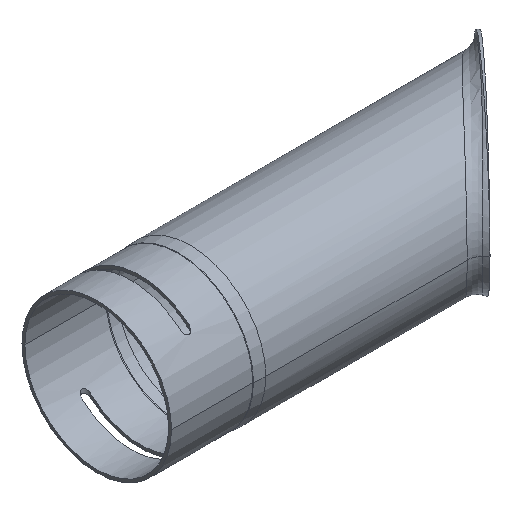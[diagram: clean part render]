
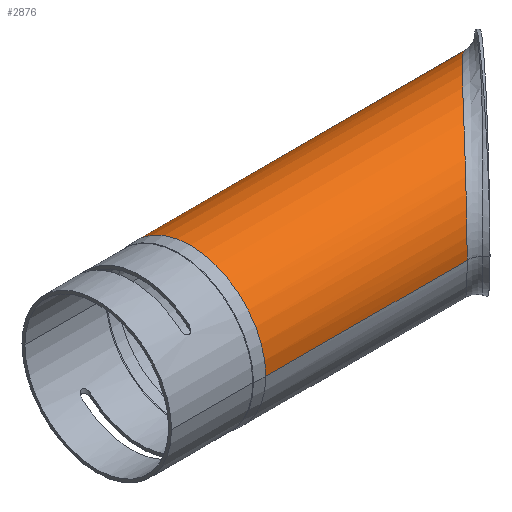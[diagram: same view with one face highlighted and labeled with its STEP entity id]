
A CAD part, isometric view. The second image highlights one B-rep face of the part: STEP entity #2876.
In plain terms, the highlighted cylindrical face has radius 39 mm (diameter 78 mm), a partial arc.
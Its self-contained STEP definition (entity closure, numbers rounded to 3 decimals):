
#977=DIRECTION('',(-1.,0.,0.));
#978=VECTOR('',#977,103.624);
#979=CARTESIAN_POINT('',(-81.314,-39.,
0.));
#980=LINE('',#979,#978);
#984=CARTESIAN_POINT('',(-3.314,39.,0.));
#1053=CARTESIAN_POINT('',(-81.314,-39.,
0.));
#1058=DIRECTION('',(-1.,0.,0.));
#1059=VECTOR('',#1058,181.624);
#1060=CARTESIAN_POINT('',(-3.314,39.,0.));
#1061=LINE('',#1060,#1059);
#1065=CARTESIAN_POINT('',(-184.938,0.,0.));
#1066=DIRECTION('',(1.,0.,0.));
#1067=DIRECTION('',(0.,1.,0.));
#1068=AXIS2_PLACEMENT_3D('',#1065,#1066,#1067);
#1073=CARTESIAN_POINT('',(-81.314,-39.,
0.));
#1074=CARTESIAN_POINT('',(-81.314,-39.,
0.515));
#1075=CARTESIAN_POINT('',(-81.295,-38.98,
1.548));
#1076=CARTESIAN_POINT('',(-81.21,-38.887,
3.107));
#1077=CARTESIAN_POINT('',(-81.066,-38.73,
4.671));
#1078=CARTESIAN_POINT('',(-80.862,-38.509,
6.24));
#1079=CARTESIAN_POINT('',(-80.598,-38.222,
7.807));
#1080=CARTESIAN_POINT('',(-80.272,-37.869,
9.372));
#1081=CARTESIAN_POINT('',(-79.886,-37.449,
10.929));
#1082=CARTESIAN_POINT('',(-79.432,-36.958,
12.491));
#1083=CARTESIAN_POINT('',(-78.914,-36.397,
14.042));
#1084=CARTESIAN_POINT('',(-78.329,-35.765,
15.583));
#1085=CARTESIAN_POINT('',(-77.671,-35.056,
17.12));
#1086=CARTESIAN_POINT('',(-76.937,-34.267,18.649));
#1087=CARTESIAN_POINT('',(-76.125,-33.396,
20.169));
#1088=CARTESIAN_POINT('',(-75.231,-32.437,
21.678));
#1089=CARTESIAN_POINT('',(-74.253,-31.388,
23.172));
#1090=CARTESIAN_POINT('',(-73.193,-30.251,
24.639));
#1091=CARTESIAN_POINT('',(-72.046,-29.022,
26.076));
#1092=CARTESIAN_POINT('',(-70.815,-27.703,
27.474));
#1093=CARTESIAN_POINT('',(-69.497,-26.293,
28.826));
#1094=CARTESIAN_POINT('',(-68.091,-24.793,
30.127));
#1095=CARTESIAN_POINT('',(-66.588,-23.194,
31.376));
#1096=CARTESIAN_POINT('',(-64.992,-21.497,
32.563));
#1097=CARTESIAN_POINT('',(-63.304,-19.703,
33.679));
#1098=CARTESIAN_POINT('',(-61.533,-17.822,
34.712));
#1099=CARTESIAN_POINT('',(-59.684,-15.859,
35.653));
#1100=CARTESIAN_POINT('',(-57.763,-13.822,
36.491));
#1101=CARTESIAN_POINT('',(-55.778,-11.72,
37.22));
#1102=CARTESIAN_POINT('',(-53.729,-9.558,
37.833));
#1103=CARTESIAN_POINT('',(-51.621,-7.34,
38.326));
#1104=CARTESIAN_POINT('',(-49.466,-5.078,
38.691));
#1105=CARTESIAN_POINT('',(-47.275,-2.785,
38.923));
#1106=CARTESIAN_POINT('',(-45.064,-0.482,
39.02));
#1107=CARTESIAN_POINT('',(-42.852,1.809,38.98));
#1108=CARTESIAN_POINT('',(-40.654,4.069,38.809));
#1109=CARTESIAN_POINT('',(-38.505,6.259,38.515));
#1110=CARTESIAN_POINT('',(-36.391,8.396,38.106));
#1111=CARTESIAN_POINT('',(-34.311,10.481,37.585));
#1112=CARTESIAN_POINT('',(-32.278,12.501,36.962));
#1113=CARTESIAN_POINT('',(-30.293,14.455,36.242));
#1114=CARTESIAN_POINT('',(-28.362,16.338,35.432));
#1115=CARTESIAN_POINT('',(-26.49,18.145,34.541));
#1116=CARTESIAN_POINT('',(-24.692,19.863,33.581));
#1117=CARTESIAN_POINT('',(-22.972,21.49,32.564));
#1118=CARTESIAN_POINT('',(-21.315,23.042,31.484));
#1119=CARTESIAN_POINT('',(-19.724,24.518,30.348));
#1120=CARTESIAN_POINT('',(-18.207,25.913,29.165));
#1121=CARTESIAN_POINT('',(-16.762,27.231,27.938));
#1122=CARTESIAN_POINT('',(-15.391,28.471,26.673));
#1123=CARTESIAN_POINT('',(-14.093,29.636,25.371));
#1124=CARTESIAN_POINT('',(-12.877,30.719,24.047));
#1125=CARTESIAN_POINT('',(-11.739,31.727,22.701));
#1126=CARTESIAN_POINT('',(-10.675,32.662,21.333));
#1127=CARTESIAN_POINT('',(-9.688,33.526,19.947));
#1128=CARTESIAN_POINT('',(-8.776,34.32,18.547));
#1129=CARTESIAN_POINT('',(-7.938,35.046,17.136));
#1130=CARTESIAN_POINT('',(-7.175,35.705,15.715));
#1131=CARTESIAN_POINT('',(-6.483,36.3,14.286));
#1132=CARTESIAN_POINT('',(-5.865,36.83,12.857));
#1133=CARTESIAN_POINT('',(-5.316,37.299,11.425));
#1134=CARTESIAN_POINT('',(-4.836,37.709,9.989));
#1135=CARTESIAN_POINT('',(-4.423,38.06,8.551));
#1136=CARTESIAN_POINT('',(-4.075,38.355,7.113));
#1137=CARTESIAN_POINT('',(-3.794,38.594,5.675));
#1138=CARTESIAN_POINT('',(-3.577,38.777,4.243));
#1139=CARTESIAN_POINT('',(-3.424,38.907,2.817));
#1140=CARTESIAN_POINT('',(-3.333,38.983,1.401));
#1141=CARTESIAN_POINT('',(-3.314,39.,
0.466));
#1142=CARTESIAN_POINT('',(-3.314,39.,0.));
#1187=CARTESIAN_POINT('',(-184.938,39.,0.));
#1188=CARTESIAN_POINT('',(-184.938,-39.,0.));
#1189=VERTEX_POINT('',#1187);
#1190=VERTEX_POINT('',#1188);
#1207=VERTEX_POINT('',#984);
#1208=VERTEX_POINT('',#1053);
#2865=CARTESIAN_POINT('',(-244.65,0.,0.));
#2866=DIRECTION('',(1.,0.,0.));
#2867=DIRECTION('',(0.,-1.,0.));
#2868=AXIS2_PLACEMENT_3D('',#2865,#2866,#2867);
#2869=CYLINDRICAL_SURFACE('',#2868,39.);
#2870=ORIENTED_EDGE('',*,*,#2807,.F.);
#2871=ORIENTED_EDGE('',*,*,#2860,.F.);
#2872=ORIENTED_EDGE('',*,*,#1886,.F.);
#2873=ORIENTED_EDGE('',*,*,#2857,.T.);
#2874=EDGE_LOOP('',(#2870,#2871,#2872,#2873));
#2875=FACE_OUTER_BOUND('',#2874,.F.);
#1069=CIRCLE('',#1068,39.);
#1143=B_SPLINE_CURVE_WITH_KNOTS('',3,(#1073,#1074,#1075,#1076,#1077,#1078,#1079,
#1080,#1081,#1082,#1083,#1084,#1085,#1086,#1087,#1088,#1089,#1090,#1091,#1092,
#1093,#1094,#1095,#1096,#1097,#1098,#1099,#1100,#1101,#1102,#1103,#1104,#1105,
#1106,#1107,#1108,#1109,#1110,#1111,#1112,#1113,#1114,#1115,#1116,#1117,#1118,
#1119,#1120,#1121,#1122,#1123,#1124,#1125,#1126,#1127,#1128,#1129,#1130,#1131,
#1132,#1133,#1134,#1135,#1136,#1137,#1138,#1139,#1140,#1141,#1142),
.UNSPECIFIED.,.F.,.F.,(4,1,1,1,1,1,1,1,1,1,1,1,1,1,1,1,1,1,1,1,1,1,1,1,1,1,1,1,
1,1,1,1,1,1,1,1,1,1,1,1,1,1,1,1,1,1,1,1,1,1,1,1,1,1,1,1,1,1,1,1,1,1,1,1,1,1,1,
4),(0.,0.015,0.03,0.045,
0.06,0.075,0.09,0.104,
0.119,0.134,0.149,0.164,
0.179,0.194,0.209,0.224,
0.239,0.254,0.269,0.284,
0.299,0.313,0.328,0.343,
0.358,0.373,0.388,0.403,
0.418,0.433,0.448,0.463,
0.478,0.493,0.507,0.522,
0.537,0.552,0.567,0.582,
0.597,0.612,0.627,0.642,
0.657,0.672,0.687,0.701,
0.716,0.731,0.746,0.761,
0.776,0.791,0.806,0.821,
0.836,0.851,0.866,0.881,
0.896,0.91,0.925,0.94,
0.955,0.97,0.985,1.),.UNSPECIFIED.);
#1886=EDGE_CURVE('',#1208,#1207,#1143,.T.);
#2807=EDGE_CURVE('',#1189,#1190,#1069,.T.);
#2857=EDGE_CURVE('',#1208,#1190,#980,.T.);
#2860=EDGE_CURVE('',#1207,#1189,#1061,.T.);
#2876=ADVANCED_FACE('',(#2875),#2869,.T.);
